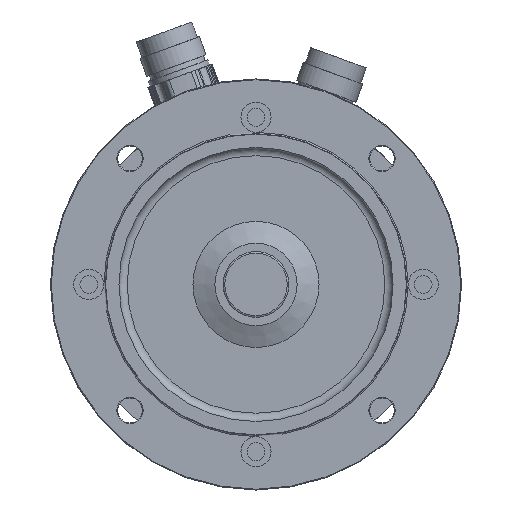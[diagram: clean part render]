
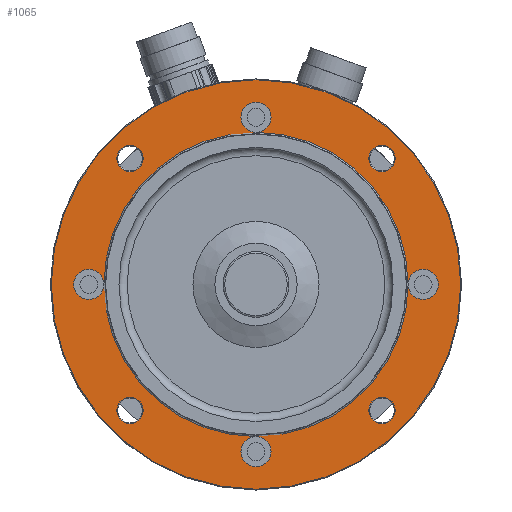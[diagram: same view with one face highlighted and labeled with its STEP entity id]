
A CAD part, front view. The second image highlights one B-rep face of the part: STEP entity #1065.
In plain terms, the highlighted planar face has unit normal (0, -1, 0).
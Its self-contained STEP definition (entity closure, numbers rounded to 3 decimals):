
#397=PLANE('',#6130);
#504=FACE_OUTER_BOUND('',#2204,.T.);
#1065=ADVANCED_FACE('',(#1698,#1699,#1700,#1701,#504,#1702),#397,.T.);
#1698=FACE_BOUND('',#2200,.T.);
#1699=FACE_BOUND('',#2201,.T.);
#1700=FACE_BOUND('',#2202,.T.);
#1701=FACE_BOUND('',#2203,.T.);
#1702=FACE_BOUND('',#2205,.T.);
#2200=EDGE_LOOP('',(#2971));
#2201=EDGE_LOOP('',(#2972));
#2202=EDGE_LOOP('',(#2973));
#2203=EDGE_LOOP('',(#2974));
#2204=EDGE_LOOP('',(#2975));
#2205=EDGE_LOOP('',(#2976,#2977,#2978,#2979,#2980,#2981,#2982,#2983));
#2971=ORIENTED_EDGE('',*,*,#4905,.T.);
#2972=ORIENTED_EDGE('',*,*,#4906,.T.);
#2973=ORIENTED_EDGE('',*,*,#4907,.T.);
#2974=ORIENTED_EDGE('',*,*,#4908,.T.);
#2975=ORIENTED_EDGE('',*,*,#4909,.T.);
#2976=ORIENTED_EDGE('',*,*,#4910,.T.);
#2977=ORIENTED_EDGE('',*,*,#4911,.T.);
#2978=ORIENTED_EDGE('',*,*,#4912,.T.);
#2979=ORIENTED_EDGE('',*,*,#4913,.T.);
#2980=ORIENTED_EDGE('',*,*,#4914,.T.);
#2981=ORIENTED_EDGE('',*,*,#4915,.T.);
#2982=ORIENTED_EDGE('',*,*,#4916,.T.);
#2983=ORIENTED_EDGE('',*,*,#4917,.T.);
#4335=VERTEX_POINT('',#9146);
#4336=VERTEX_POINT('',#9148);
#4337=VERTEX_POINT('',#9150);
#4338=VERTEX_POINT('',#9152);
#4339=VERTEX_POINT('',#9154);
#4340=VERTEX_POINT('',#9156);
#4341=VERTEX_POINT('',#9158);
#4342=VERTEX_POINT('',#9161);
#4343=VERTEX_POINT('',#9164);
#4905=EDGE_CURVE('',#4335,#4335,#5584,.T.);
#4906=EDGE_CURVE('',#4336,#4336,#5585,.T.);
#4907=EDGE_CURVE('',#4337,#4337,#5586,.T.);
#4908=EDGE_CURVE('',#4338,#4338,#5587,.T.);
#4909=EDGE_CURVE('',#4339,#4339,#5588,.T.);
#4910=EDGE_CURVE('',#4340,#4340,#5589,.T.);
#4911=EDGE_CURVE('',#4340,#4341,#5590,.T.);
#4912=EDGE_CURVE('',#4341,#4341,#5591,.T.);
#4913=EDGE_CURVE('',#4341,#4342,#5592,.T.);
#4914=EDGE_CURVE('',#4342,#4342,#5593,.T.);
#4915=EDGE_CURVE('',#4342,#4343,#5594,.T.);
#4916=EDGE_CURVE('',#4343,#4343,#5595,.T.);
#4917=EDGE_CURVE('',#4343,#4340,#5596,.T.);
#5584=CIRCLE('',#6117,4.8);
#5585=CIRCLE('',#6118,4.8);
#5586=CIRCLE('',#6119,4.8);
#5587=CIRCLE('',#6120,4.8);
#5588=CIRCLE('',#6121,74.7);
#5589=CIRCLE('',#6122,5.5);
#5590=CIRCLE('',#6123,55.5);
#5591=CIRCLE('',#6124,5.5);
#5592=CIRCLE('',#6125,55.5);
#5593=CIRCLE('',#6126,5.5);
#5594=CIRCLE('',#6127,55.5);
#5595=CIRCLE('',#6128,5.5);
#5596=CIRCLE('',#6129,55.5);
#6117=AXIS2_PLACEMENT_3D('',#9145,#7099,#7100);
#6118=AXIS2_PLACEMENT_3D('',#9147,#7101,#7102);
#6119=AXIS2_PLACEMENT_3D('',#9149,#7103,#7104);
#6120=AXIS2_PLACEMENT_3D('',#9151,#7105,#7106);
#6121=AXIS2_PLACEMENT_3D('',#9153,#7107,#7108);
#6122=AXIS2_PLACEMENT_3D('',#9155,#7109,#7110);
#6123=AXIS2_PLACEMENT_3D('',#9157,#7111,#7112);
#6124=AXIS2_PLACEMENT_3D('',#9159,#7113,#7114);
#6125=AXIS2_PLACEMENT_3D('',#9160,#7115,#7116);
#6126=AXIS2_PLACEMENT_3D('',#9162,#7117,#7118);
#6127=AXIS2_PLACEMENT_3D('',#9163,#7119,#7120);
#6128=AXIS2_PLACEMENT_3D('',#9165,#7121,#7122);
#6129=AXIS2_PLACEMENT_3D('',#9166,#7123,#7124);
#6130=AXIS2_PLACEMENT_3D('',#9167,#7125,#7126);
#7099=DIRECTION('',(0.,1.,0.));
#7100=DIRECTION('',(0.,0.,-1.));
#7101=DIRECTION('',(0.,1.,0.));
#7102=DIRECTION('',(0.,0.,-1.));
#7103=DIRECTION('',(0.,1.,0.));
#7104=DIRECTION('',(0.,0.,-1.));
#7105=DIRECTION('',(0.,1.,0.));
#7106=DIRECTION('',(0.,0.,-1.));
#7107=DIRECTION('',(0.,-1.,0.));
#7108=DIRECTION('',(0.,0.,-1.));
#7109=DIRECTION('',(0.,1.,0.));
#7110=DIRECTION('',(0.,0.,-1.));
#7111=DIRECTION('',(0.,1.,0.));
#7112=DIRECTION('',(0.,0.,-1.));
#7113=DIRECTION('',(0.,1.,0.));
#7114=DIRECTION('',(-1.,0.,0.));
#7115=DIRECTION('',(0.,1.,0.));
#7116=DIRECTION('',(0.,0.,-1.));
#7117=DIRECTION('',(0.,1.,0.));
#7118=DIRECTION('',(0.,0.,1.));
#7119=DIRECTION('',(0.,1.,0.));
#7120=DIRECTION('',(0.,0.,-1.));
#7121=DIRECTION('',(0.,1.,0.));
#7122=DIRECTION('',(1.,0.,0.));
#7123=DIRECTION('',(0.,1.,0.));
#7124=DIRECTION('',(0.,0.,-1.));
#7125=DIRECTION('',(0.,-1.,0.));
#7126=DIRECTION('',(0.,0.,-1.));
#9145=CARTESIAN_POINT('',(45.962,0.,-45.962));
#9146=CARTESIAN_POINT('',(45.962,0.,-50.762));
#9147=CARTESIAN_POINT('',(-45.962,0.,45.962));
#9148=CARTESIAN_POINT('',(-45.962,0.,41.162));
#9149=CARTESIAN_POINT('',(45.962,0.,45.962));
#9150=CARTESIAN_POINT('',(45.962,0.,41.162));
#9151=CARTESIAN_POINT('',(-45.962,0.,-45.962));
#9152=CARTESIAN_POINT('',(-45.962,0.,-50.762));
#9153=CARTESIAN_POINT('',(0.,0.,0.));
#9154=CARTESIAN_POINT('',(0.,0.,-74.7));
#9155=CARTESIAN_POINT('',(0.,0.,-61.));
#9156=CARTESIAN_POINT('',(0.,0.,-55.5));
#9157=CARTESIAN_POINT('',(0.,0.,0.));
#9158=CARTESIAN_POINT('',(-55.5,0.,0.));
#9159=CARTESIAN_POINT('',(-61.,0.,0.));
#9160=CARTESIAN_POINT('',(0.,0.,0.));
#9161=CARTESIAN_POINT('',(0.,0.,55.5));
#9162=CARTESIAN_POINT('',(0.,0.,61.));
#9163=CARTESIAN_POINT('',(0.,0.,0.));
#9164=CARTESIAN_POINT('',(55.5,0.,0.));
#9165=CARTESIAN_POINT('',(61.,0.,0.));
#9166=CARTESIAN_POINT('',(0.,0.,0.));
#9167=CARTESIAN_POINT('',(0.,0.,0.));
